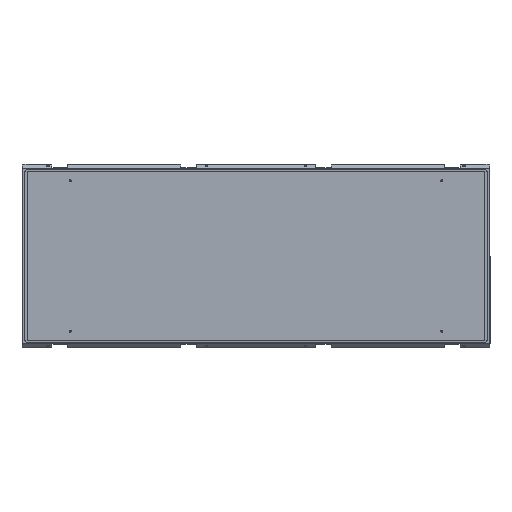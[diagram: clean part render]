
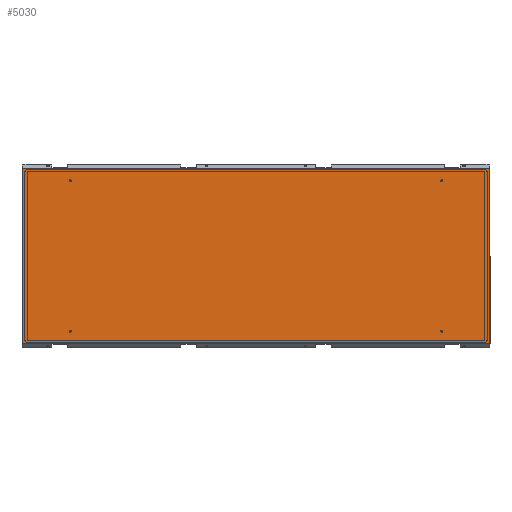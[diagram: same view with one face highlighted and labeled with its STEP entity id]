
A CAD part, left-side view. The second image highlights one B-rep face of the part: STEP entity #5030.
In plain terms, the highlighted planar face has unit normal (-1, 0, 0) as drawn and (0, 0, 1) by its records, which use the part's own axes.
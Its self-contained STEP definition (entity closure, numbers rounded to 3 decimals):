
#548 = DIRECTION ( 'NONE',  ( -1., 0., 0. ) ) ;
#555 = EDGE_CURVE ( 'NONE', #8435, #3002, #5232, .T. ) ;
#632 = ORIENTED_EDGE ( 'NONE', *, *, #555, .T. ) ;
#1230 = ORIENTED_EDGE ( 'NONE', *, *, #1955, .T. ) ;
#1358 = CARTESIAN_POINT ( 'NONE',  ( 362.75, -970.5, 0. ) ) ;
#1411 = DIRECTION ( 'NONE',  ( -1., 0., 0. ) ) ;
#1671 = VERTEX_POINT ( 'NONE', #7871 ) ;
#1879 = LINE ( 'NONE', #5077, #3599 ) ;
#1951 = PLANE ( 'NONE',  #5644 ) ;
#1955 = EDGE_CURVE ( 'NONE', #1671, #8259, #3437, .T. ) ;
#2120 = CARTESIAN_POINT ( 'NONE',  ( -362.75, 970.5, 0. ) ) ;
#2475 = CARTESIAN_POINT ( 'NONE',  ( 362.75, -970.5, 0. ) ) ;
#3002 = VERTEX_POINT ( 'NONE', #1358 ) ;
#3143 = DIRECTION ( 'NONE',  ( 0., 0., -1. ) ) ;
#3437 = LINE ( 'NONE', #2120, #3817 ) ;
#3599 = VECTOR ( 'NONE', #7758, 1000. ) ;
#3625 = EDGE_CURVE ( 'NONE', #3002, #1671, #8380, .T. ) ;
#3817 = VECTOR ( 'NONE', #1411, 1000. ) ;
#3876 = CARTESIAN_POINT ( 'NONE',  ( -362.75, -970.5, 0. ) ) ;
#3911 = DIRECTION ( 'NONE',  ( 1., 0., 0. ) ) ;
#4920 = VECTOR ( 'NONE', #5150, 1000. ) ;
#5028 = ORIENTED_EDGE ( 'NONE', *, *, #8503, .T. ) ;
#5030 = ADVANCED_FACE ( 'NONE', ( #6564 ), #1951, .F. ) ;
#5077 = CARTESIAN_POINT ( 'NONE',  ( -362.75, -970.5, 0. ) ) ;
#5150 = DIRECTION ( 'NONE',  ( 0., 1., 0. ) ) ;
#5232 = LINE ( 'NONE', #3876, #8123 ) ;
#5644 = AXIS2_PLACEMENT_3D ( 'NONE', #7138, #3143, #548 ) ;
#6564 = FACE_OUTER_BOUND ( 'NONE', #7484, .T. ) ;
#7138 = CARTESIAN_POINT ( 'NONE',  ( 0., 0., 0. ) ) ;
#7451 = CARTESIAN_POINT ( 'NONE',  ( -362.75, 970.5, 0. ) ) ;
#7484 = EDGE_LOOP ( 'NONE', ( #7510, #1230, #5028, #632 ) ) ;
#7510 = ORIENTED_EDGE ( 'NONE', *, *, #3625, .T. ) ;
#7758 = DIRECTION ( 'NONE',  ( 0., -1., 0. ) ) ;
#7871 = CARTESIAN_POINT ( 'NONE',  ( 362.75, 970.5, 0. ) ) ;
#8123 = VECTOR ( 'NONE', #3911, 1000. ) ;
#8259 = VERTEX_POINT ( 'NONE', #7451 ) ;
#8272 = CARTESIAN_POINT ( 'NONE',  ( -362.75, -970.5, 0. ) ) ;
#8380 = LINE ( 'NONE', #2475, #4920 ) ;
#8435 = VERTEX_POINT ( 'NONE', #8272 ) ;
#8503 = EDGE_CURVE ( 'NONE', #8259, #8435, #1879, .T. ) ;
